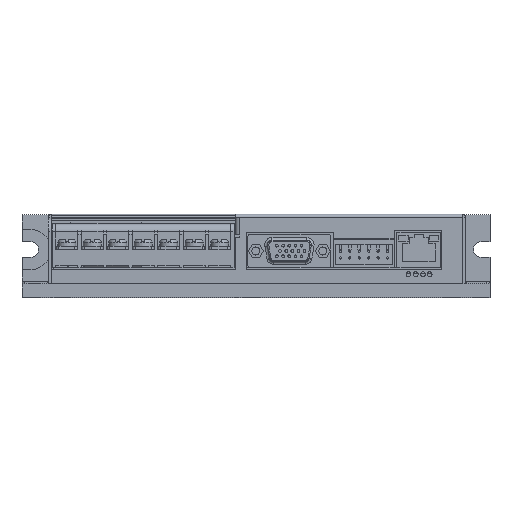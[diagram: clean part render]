
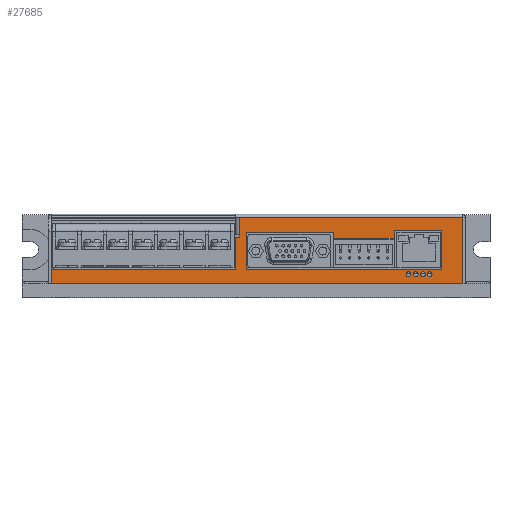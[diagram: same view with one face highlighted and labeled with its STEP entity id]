
A CAD part, top view. The second image highlights one B-rep face of the part: STEP entity #27685.
In plain terms, the highlighted planar face has unit normal (0, 0, 1).
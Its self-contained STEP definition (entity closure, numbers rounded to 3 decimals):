
#21605=DIRECTION('',(-1.,0.,0.));
#21606=VECTOR('',#21605,83.3);
#21607=CARTESIAN_POINT('',(77.1,17.4,48.5));
#21608=LINE('',#21607,#21606);
#23589=DIRECTION('',(1.,0.,0.));
#23590=VECTOR('',#23589,17.9);
#23591=CARTESIAN_POINT('',(51.5,12.5,48.5));
#23592=LINE('',#23591,#23590);
#23593=DIRECTION('',(0.,1.,0.));
#23594=VECTOR('',#23593,3.);
#23595=CARTESIAN_POINT('',(51.5,9.5,48.5));
#23596=LINE('',#23595,#23594);
#23597=DIRECTION('',(1.,0.,0.));
#23598=VECTOR('',#23597,22.4);
#23599=CARTESIAN_POINT('',(29.1,9.5,48.5));
#23600=LINE('',#23599,#23598);
#23601=DIRECTION('',(0.,-1.,0.));
#23602=VECTOR('',#23601,2.35);
#23603=CARTESIAN_POINT('',(29.1,11.85,48.5));
#23604=LINE('',#23603,#23602);
#23605=DIRECTION('',(1.,0.,0.));
#23606=VECTOR('',#23605,32.635);
#23607=CARTESIAN_POINT('',(-3.535,11.85,48.5));
#23608=LINE('',#23607,#23606);
#23609=DIRECTION('',(0.,1.,0.));
#23610=VECTOR('',#23609,14.05);
#23611=CARTESIAN_POINT('',(-3.535,-2.2,48.5));
#23612=LINE('',#23611,#23610);
#23613=DIRECTION('',(-1.,0.,0.));
#23614=VECTOR('',#23613,72.935);
#23615=CARTESIAN_POINT('',(69.4,-2.2,48.5));
#23616=LINE('',#23615,#23614);
#23617=DIRECTION('',(0.,-1.,0.));
#23618=VECTOR('',#23617,14.7);
#23619=CARTESIAN_POINT('',(69.4,12.5,48.5));
#23620=LINE('',#23619,#23618);
#23621=CARTESIAN_POINT('',(56.884,-3.9,48.5));
#23622=DIRECTION('',(0.,0.,1.));
#23623=DIRECTION('',(-1.,0.,0.));
#23624=AXIS2_PLACEMENT_3D('',#23621,#23622,#23623);
#23626=CARTESIAN_POINT('',(56.884,-3.9,48.5));
#23627=DIRECTION('',(0.,0.,1.));
#23628=DIRECTION('',(1.,0.,0.));
#23629=AXIS2_PLACEMENT_3D('',#23626,#23627,#23628);
#23631=CARTESIAN_POINT('',(59.584,-3.9,48.5));
#23632=DIRECTION('',(0.,0.,1.));
#23633=DIRECTION('',(-1.,0.,0.));
#23634=AXIS2_PLACEMENT_3D('',#23631,#23632,#23633);
#23636=CARTESIAN_POINT('',(59.584,-3.9,48.5));
#23637=DIRECTION('',(0.,0.,1.));
#23638=DIRECTION('',(1.,0.,0.));
#23639=AXIS2_PLACEMENT_3D('',#23636,#23637,#23638);
#23641=CARTESIAN_POINT('',(62.284,-3.9,48.5));
#23642=DIRECTION('',(0.,0.,1.));
#23643=DIRECTION('',(-1.,0.,0.));
#23644=AXIS2_PLACEMENT_3D('',#23641,#23642,#23643);
#23646=CARTESIAN_POINT('',(62.284,-3.9,48.5));
#23647=DIRECTION('',(0.,0.,1.));
#23648=DIRECTION('',(1.,0.,0.));
#23649=AXIS2_PLACEMENT_3D('',#23646,#23647,#23648);
#23651=CARTESIAN_POINT('',(64.784,-3.9,48.5));
#23652=DIRECTION('',(0.,0.,1.));
#23653=DIRECTION('',(-1.,0.,0.));
#23654=AXIS2_PLACEMENT_3D('',#23651,#23652,#23653);
#23656=CARTESIAN_POINT('',(64.784,-3.9,48.5));
#23657=DIRECTION('',(0.,0.,1.));
#23658=DIRECTION('',(1.,0.,0.));
#23659=AXIS2_PLACEMENT_3D('',#23656,#23657,#23658);
#23661=DIRECTION('',(0.,-1.,0.));
#23662=VECTOR('',#23661,1.);
#23663=CARTESIAN_POINT('',(-6.2,10.8,48.5));
#23664=LINE('',#23663,#23662);
#23665=DIRECTION('',(0.,1.,0.));
#23666=VECTOR('',#23665,24.9);
#23667=CARTESIAN_POINT('',(77.1,-7.5,48.5));
#23668=LINE('',#23667,#23666);
#23669=DIRECTION('',(1.,0.,0.));
#23670=VECTOR('',#23669,153.5);
#23671=CARTESIAN_POINT('',(-76.4,-7.5,48.5));
#23672=LINE('',#23671,#23670);
#23673=DIRECTION('',(0.,-1.,0.));
#23674=VECTOR('',#23673,5.3);
#23675=CARTESIAN_POINT('',(-76.4,-2.2,48.5));
#23676=LINE('',#23675,#23674);
#23677=DIRECTION('',(1.,0.,0.));
#23678=VECTOR('',#23677,68.7);
#23679=CARTESIAN_POINT('',(-76.4,-2.2,48.5));
#23680=LINE('',#23679,#23678);
#23681=DIRECTION('',(0.,-1.,0.));
#23682=VECTOR('',#23681,12.);
#23683=CARTESIAN_POINT('',(-7.7,9.8,48.5));
#23684=LINE('',#23683,#23682);
#23685=DIRECTION('',(1.,0.,0.));
#23686=VECTOR('',#23685,1.5);
#23687=CARTESIAN_POINT('',(-7.7,9.8,48.5));
#23688=LINE('',#23687,#23686);
#23917=DIRECTION('',(0.,1.,0.));
#23918=VECTOR('',#23917,6.6);
#23919=CARTESIAN_POINT('',(-6.2,10.8,48.5));
#23920=LINE('',#23919,#23918);
#24293=CARTESIAN_POINT('',(-76.4,-7.5,48.5));
#24294=CARTESIAN_POINT('',(77.1,-7.5,48.5));
#24295=VERTEX_POINT('',#24293);
#24296=VERTEX_POINT('',#24294);
#24297=CARTESIAN_POINT('',(77.1,17.4,48.5));
#24298=VERTEX_POINT('',#24297);
#24305=CARTESIAN_POINT('',(51.5,12.5,48.5));
#24306=CARTESIAN_POINT('',(69.4,12.5,48.5));
#24307=VERTEX_POINT('',#24305);
#24308=VERTEX_POINT('',#24306);
#24309=CARTESIAN_POINT('',(69.4,-2.2,48.5));
#24310=VERTEX_POINT('',#24309);
#24311=CARTESIAN_POINT('',(-3.535,-2.2,48.5));
#24312=VERTEX_POINT('',#24311);
#24313=CARTESIAN_POINT('',(29.1,9.5,48.5));
#24314=CARTESIAN_POINT('',(51.5,9.5,48.5));
#24315=VERTEX_POINT('',#24313);
#24316=VERTEX_POINT('',#24314);
#24337=CARTESIAN_POINT('',(55.984,-3.9,48.5));
#24338=CARTESIAN_POINT('',(57.784,-3.9,48.5));
#24339=VERTEX_POINT('',#24337);
#24340=VERTEX_POINT('',#24338);
#24341=CARTESIAN_POINT('',(58.684,-3.9,48.5));
#24342=CARTESIAN_POINT('',(60.484,-3.9,48.5));
#24343=VERTEX_POINT('',#24341);
#24344=VERTEX_POINT('',#24342);
#24345=CARTESIAN_POINT('',(61.384,-3.9,48.5));
#24346=CARTESIAN_POINT('',(63.184,-3.9,48.5));
#24347=VERTEX_POINT('',#24345);
#24348=VERTEX_POINT('',#24346);
#24425=CARTESIAN_POINT('',(63.884,-3.9,48.5));
#24426=CARTESIAN_POINT('',(65.684,-3.9,48.5));
#24427=VERTEX_POINT('',#24425);
#24428=VERTEX_POINT('',#24426);
#24433=CARTESIAN_POINT('',(-3.535,11.85,48.5));
#24434=VERTEX_POINT('',#24433);
#24435=CARTESIAN_POINT('',(29.1,11.85,48.5));
#24436=VERTEX_POINT('',#24435);
#24521=CARTESIAN_POINT('',(-76.4,-2.2,48.5));
#24522=CARTESIAN_POINT('',(-7.7,-2.2,48.5));
#24523=VERTEX_POINT('',#24521);
#24524=VERTEX_POINT('',#24522);
#24622=CARTESIAN_POINT('',(-6.2,17.4,48.5));
#24623=VERTEX_POINT('',#24622);
#24642=CARTESIAN_POINT('',(-6.2,10.8,48.5));
#24643=CARTESIAN_POINT('',(-6.2,9.8,48.5));
#24644=VERTEX_POINT('',#24642);
#24645=VERTEX_POINT('',#24643);
#24646=CARTESIAN_POINT('',(-7.7,9.8,48.5));
#24647=VERTEX_POINT('',#24646);
#27620=CARTESIAN_POINT('',(-76.4,18.5,48.5));
#27621=DIRECTION('',(0.,0.,1.));
#27622=DIRECTION('',(-1.,0.,0.));
#27623=AXIS2_PLACEMENT_3D('',#27620,#27621,#27622);
#27624=PLANE('',#27623);
#27626=ORIENTED_EDGE('',*,*,#27625,.F.);
#27628=ORIENTED_EDGE('',*,*,#27627,.T.);
#27629=ORIENTED_EDGE('',*,*,#24756,.F.);
#27630=ORIENTED_EDGE('',*,*,#27610,.F.);
#27632=ORIENTED_EDGE('',*,*,#27631,.F.);
#27634=ORIENTED_EDGE('',*,*,#27633,.F.);
#27636=ORIENTED_EDGE('',*,*,#27635,.T.);
#27638=ORIENTED_EDGE('',*,*,#27637,.F.);
#27640=ORIENTED_EDGE('',*,*,#27639,.T.);
#27641=EDGE_LOOP('',(#27626,#27628,#27629,#27630,#27632,#27634,#27636,#27638,
#27640));
#27642=FACE_OUTER_BOUND('',#27641,.F.);
#27644=ORIENTED_EDGE('',*,*,#27643,.T.);
#27646=ORIENTED_EDGE('',*,*,#27645,.T.);
#27647=EDGE_LOOP('',(#27644,#27646));
#27648=FACE_BOUND('',#27647,.F.);
#27650=ORIENTED_EDGE('',*,*,#27649,.T.);
#27652=ORIENTED_EDGE('',*,*,#27651,.T.);
#27653=EDGE_LOOP('',(#27650,#27652));
#27654=FACE_BOUND('',#27653,.F.);
#27656=ORIENTED_EDGE('',*,*,#27655,.T.);
#27658=ORIENTED_EDGE('',*,*,#27657,.T.);
#27659=EDGE_LOOP('',(#27656,#27658));
#27660=FACE_BOUND('',#27659,.F.);
#27662=ORIENTED_EDGE('',*,*,#27661,.T.);
#27664=ORIENTED_EDGE('',*,*,#27663,.T.);
#27665=EDGE_LOOP('',(#27662,#27664));
#27666=FACE_BOUND('',#27665,.F.);
#27668=ORIENTED_EDGE('',*,*,#27667,.F.);
#27670=ORIENTED_EDGE('',*,*,#27669,.F.);
#27672=ORIENTED_EDGE('',*,*,#27671,.F.);
#27674=ORIENTED_EDGE('',*,*,#27673,.F.);
#27676=ORIENTED_EDGE('',*,*,#27675,.F.);
#27678=ORIENTED_EDGE('',*,*,#27677,.F.);
#27680=ORIENTED_EDGE('',*,*,#27679,.F.);
#27682=ORIENTED_EDGE('',*,*,#27681,.F.);
#27683=EDGE_LOOP('',(#27668,#27670,#27672,#27674,#27676,#27678,#27680,#27682));
#27684=FACE_BOUND('',#27683,.F.);
#27685=ADVANCED_FACE('',(#27642,#27648,#27654,#27660,#27666,#27684),#27624,.T.);
#23625=CIRCLE('',#23624,0.9);
#23630=CIRCLE('',#23629,0.9);
#23635=CIRCLE('',#23634,0.9);
#23640=CIRCLE('',#23639,0.9);
#23645=CIRCLE('',#23644,0.9);
#23650=CIRCLE('',#23649,0.9);
#23655=CIRCLE('',#23654,0.9);
#23660=CIRCLE('',#23659,0.9);
#24756=EDGE_CURVE('',#24298,#24623,#21608,.T.);
#27610=EDGE_CURVE('',#24296,#24298,#23668,.T.);
#27625=EDGE_CURVE('',#24644,#24645,#23664,.T.);
#27627=EDGE_CURVE('',#24644,#24623,#23920,.T.);
#27631=EDGE_CURVE('',#24295,#24296,#23672,.T.);
#27633=EDGE_CURVE('',#24523,#24295,#23676,.T.);
#27635=EDGE_CURVE('',#24523,#24524,#23680,.T.);
#27637=EDGE_CURVE('',#24647,#24524,#23684,.T.);
#27639=EDGE_CURVE('',#24647,#24645,#23688,.T.);
#27643=EDGE_CURVE('',#24339,#24340,#23625,.T.);
#27645=EDGE_CURVE('',#24340,#24339,#23630,.T.);
#27649=EDGE_CURVE('',#24343,#24344,#23635,.T.);
#27651=EDGE_CURVE('',#24344,#24343,#23640,.T.);
#27655=EDGE_CURVE('',#24347,#24348,#23645,.T.);
#27657=EDGE_CURVE('',#24348,#24347,#23650,.T.);
#27661=EDGE_CURVE('',#24427,#24428,#23655,.T.);
#27663=EDGE_CURVE('',#24428,#24427,#23660,.T.);
#27667=EDGE_CURVE('',#24307,#24308,#23592,.T.);
#27669=EDGE_CURVE('',#24316,#24307,#23596,.T.);
#27671=EDGE_CURVE('',#24315,#24316,#23600,.T.);
#27673=EDGE_CURVE('',#24436,#24315,#23604,.T.);
#27675=EDGE_CURVE('',#24434,#24436,#23608,.T.);
#27677=EDGE_CURVE('',#24312,#24434,#23612,.T.);
#27679=EDGE_CURVE('',#24310,#24312,#23616,.T.);
#27681=EDGE_CURVE('',#24308,#24310,#23620,.T.);
